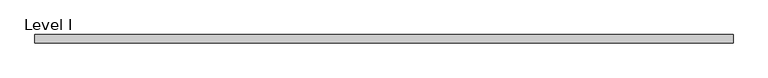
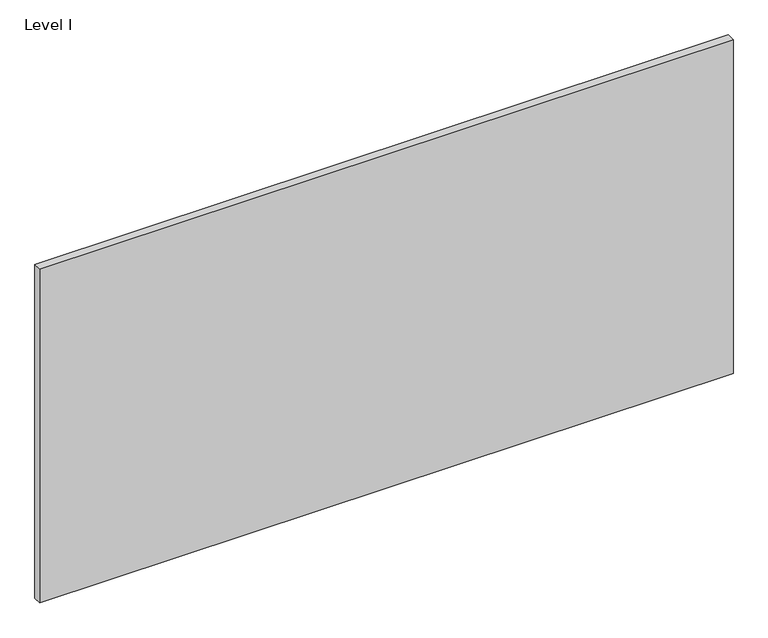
"""IFC4 building model written with IfcOpenShell, lengths in millimetres: proxy geometry, Panel-Fascia-Teknion-Altos-Landscape : Level I."""

from ifc_helpers import new_model, si_unit, frame, origin, place, context, project, spatial, polyline, outline, extrude, source, transform, mapped, element, save


def level_i_4d32b42f(model_context):
    return source(origin(), model_context, "Body", "SweptSolid", [
        extrude(outline(polyline([(795.6407125, 9.525), (795.6407125, -9.525), (-795.6407125, -9.525), (-795.6407125, 9.525), (795.6407125, 9.525)])), frame((0.0, 0.0, 3.175), z_axis=(0.0, 0.0, 1.0), x_axis=(1.0, 0.0, 0.0)), (0.0, 0.0, 1.0), 810.768),
    ])


if __name__ == "__main__":
    model = new_model("IFC4")
    model_context = context("Model", 3, world=origin())
    ifc_project = project(units=[si_unit("LENGTHUNIT", "METRE", prefix="MILLI")], contexts=[model_context])
    site = spatial("IfcSite", under=ifc_project)
    building = spatial("IfcBuilding", under=site)
    placement = place(None, origin())
    level_i_shape = level_i_4d32b42f(model_context)
    element("IfcBuildingElementProxy", 1, Name="Panel-Fascia-Teknion-Altos-Landscape : Level I", ObjectType="Panel-Fascia-Teknion-Altos-Landscape : Level I", at=placement, inside=building, context=model_context, shape_type="MappedRepresentation", body=[
        mapped(level_i_shape, transform((0.0, 0.0, 0.0), x_axis=(1.0, 0.0, 0.0), y_axis=(0.0, 1.0, 0.0), z_axis=(0.0, 0.0, 1.0))),
    ])
    save(model, "model.ifc")
